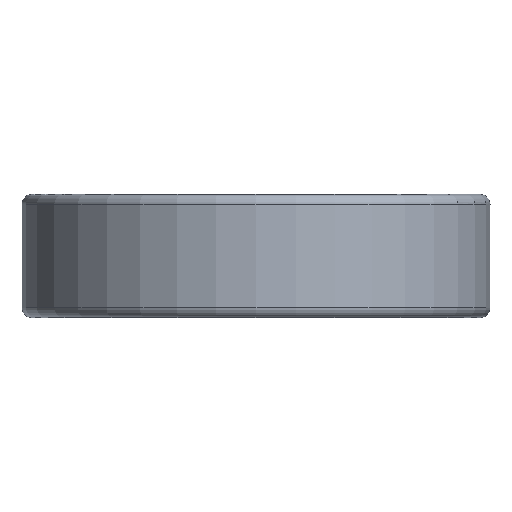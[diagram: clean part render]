
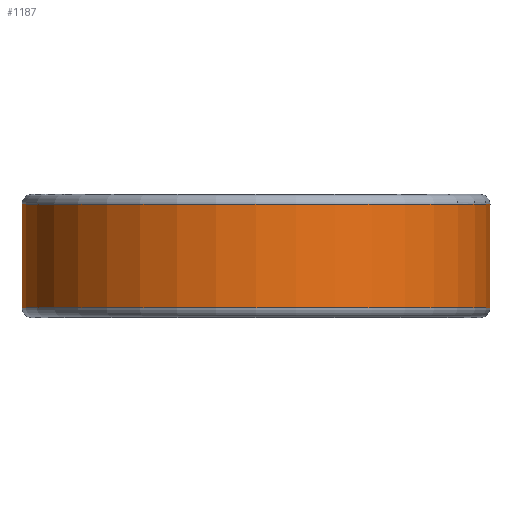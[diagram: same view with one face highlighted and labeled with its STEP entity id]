
A CAD part, left-side view. The second image highlights one B-rep face of the part: STEP entity #1187.
In plain terms, the highlighted cylindrical face has radius 28.5 mm (diameter 57 mm), a partial arc.
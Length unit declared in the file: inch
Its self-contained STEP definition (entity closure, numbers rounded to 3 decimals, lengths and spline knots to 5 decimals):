
#144=DIRECTION('',(0.,0.,1.));
#145=VECTOR('',#144,0.02868);
#146=CARTESIAN_POINT('',(1.09216,0.25725,0.18078));
#147=LINE('',#146,#145);
#148=CARTESIAN_POINT('',(1.09216,0.25725,0.40977));
#149=CARTESIAN_POINT('',(1.08242,0.2986,0.42484));
#150=CARTESIAN_POINT('',(1.05925,0.37595,0.4521));
#151=CARTESIAN_POINT('',(1.01779,0.47603,0.4817));
#152=CARTESIAN_POINT('',(0.97242,0.56233,
0.50013));
#153=CARTESIAN_POINT('',(0.92568,0.63588,
0.50765));
#154=CARTESIAN_POINT('',(0.87975,0.69767,
0.50488));
#155=CARTESIAN_POINT('',(0.83672,0.74842,
0.49279));
#156=CARTESIAN_POINT('',(0.79837,0.78894,
0.47273));
#157=CARTESIAN_POINT('',(0.76627,0.81995,
0.44665));
#158=CARTESIAN_POINT('',(0.74098,0.84274,
0.41653));
#159=CARTESIAN_POINT('',(0.72226,0.85876,
0.38364));
#160=CARTESIAN_POINT('',(0.70992,0.86894,
0.34893));
#161=CARTESIAN_POINT('',(0.7038,0.87388,
0.31319));
#162=CARTESIAN_POINT('',(0.70382,0.87386,
0.27712));
#163=CARTESIAN_POINT('',(0.70998,0.86889,
0.24139));
#164=CARTESIAN_POINT('',(0.72236,0.85867,
0.20669));
#165=CARTESIAN_POINT('',(0.74112,0.84262,
0.17381));
#166=CARTESIAN_POINT('',(0.76647,0.81977,
0.14371));
#167=CARTESIAN_POINT('',(0.79856,0.78875,
0.11771));
#168=CARTESIAN_POINT('',(0.83684,0.74828,
0.09772));
#169=CARTESIAN_POINT('',(0.87981,0.69759,
0.08566));
#170=CARTESIAN_POINT('',(0.92566,0.6359,
0.08291));
#171=CARTESIAN_POINT('',(0.97237,0.56242,
0.09041));
#172=CARTESIAN_POINT('',(1.01774,0.47613,0.10883));
#173=CARTESIAN_POINT('',(1.05922,0.37603,0.13842));
#174=CARTESIAN_POINT('',(1.08241,0.29864,0.1657));
#175=CARTESIAN_POINT('',(1.09216,0.25725,0.18078));
#177=DIRECTION('',(0.,0.,1.));
#178=VECTOR('',#177,0.02868);
#179=CARTESIAN_POINT('',(1.09216,0.25725,0.38109));
#180=LINE('',#179,#178);
#181=CARTESIAN_POINT('',(0.915,-0.64943,0.19371));
#182=CARTESIAN_POINT('',(0.90705,-0.66063,
0.19371));
#183=CARTESIAN_POINT('',(0.89165,-0.68147,
0.19556));
#184=CARTESIAN_POINT('',(0.87021,-0.70857,
0.2032));
#185=CARTESIAN_POINT('',(0.85139,-0.73099,
0.21509));
#186=CARTESIAN_POINT('',(0.83593,-0.74856,
0.23034));
#187=CARTESIAN_POINT('',(0.82439,-0.76121,
0.2479));
#188=CARTESIAN_POINT('',(0.81686,-0.76925,
0.2667));
#189=CARTESIAN_POINT('',(0.81317,-0.77314,
0.28647));
#190=CARTESIAN_POINT('',(0.81341,-0.77289,
0.30643));
#191=CARTESIAN_POINT('',(0.8175,-0.76857,
0.32597));
#192=CARTESIAN_POINT('',(0.82536,-0.76016,
0.34442));
#193=CARTESIAN_POINT('',(0.83704,-0.74732,
0.36149));
#194=CARTESIAN_POINT('',(0.8524,-0.72981,
0.37621));
#195=CARTESIAN_POINT('',(0.87094,-0.70766,
0.38767));
#196=CARTESIAN_POINT('',(0.89201,-0.68099,
0.39505));
#197=CARTESIAN_POINT('',(0.90717,-0.66046,
0.39684));
#198=CARTESIAN_POINT('',(0.915,-0.64943,0.39684));
#200=CARTESIAN_POINT('',(0.915,-0.64943,0.39684));
#201=CARTESIAN_POINT('',(0.92224,-0.63923,
0.39684));
#202=CARTESIAN_POINT('',(0.93568,-0.61958,
0.39531));
#203=CARTESIAN_POINT('',(0.95294,-0.59263,
0.39001));
#204=CARTESIAN_POINT('',(0.96763,-0.56826,
0.38261));
#205=CARTESIAN_POINT('',(0.98003,-0.54654,
0.37375));
#206=CARTESIAN_POINT('',(0.99045,-0.52738,
0.36376));
#207=CARTESIAN_POINT('',(0.99912,-0.51074,
0.35275));
#208=CARTESIAN_POINT('',(1.00616,-0.49669,
0.3408));
#209=CARTESIAN_POINT('',(1.01155,-0.48558,
0.32785));
#210=CARTESIAN_POINT('',(1.01511,-0.47808,
0.31426));
#211=CARTESIAN_POINT('',(1.01671,-0.47465,
0.3006));
#212=CARTESIAN_POINT('',(1.01651,-0.47509,
0.28688));
#213=CARTESIAN_POINT('',(1.0145,-0.47937,
0.27346));
#214=CARTESIAN_POINT('',(1.01076,-0.48724,
0.26048));
#215=CARTESIAN_POINT('',(1.00533,-0.49836,
0.2482));
#216=CARTESIAN_POINT('',(0.99833,-0.51227,
0.23669));
#217=CARTESIAN_POINT('',(0.98972,-0.52875,
0.22602));
#218=CARTESIAN_POINT('',(0.97938,-0.54772,
0.21628));
#219=CARTESIAN_POINT('',(0.96706,-0.56923,
0.2076));
#220=CARTESIAN_POINT('',(0.95249,-0.59334,
0.20038));
#221=CARTESIAN_POINT('',(0.93541,-0.61998,
0.1952));
#222=CARTESIAN_POINT('',(0.92214,-0.63937,
0.19371));
#223=CARTESIAN_POINT('',(0.915,-0.64943,0.19371));
#240=DIRECTION('',(0.,0.,-1.));
#241=VECTOR('',#240,0.17164);
#242=CARTESIAN_POINT('',(1.09216,0.25725,0.38109));
#243=LINE('',#242,#241);
#311=CARTESIAN_POINT('',(1.12161,0.0313,0.54331));
#321=DIRECTION('',(0.,0.,-1.));
#322=VECTOR('',#321,0.49607);
#323=CARTESIAN_POINT('',(1.12161,0.0313,0.54331));
#324=LINE('',#323,#322);
#333=CARTESIAN_POINT('',(1.12161,0.0313,0.04724));
#497=CARTESIAN_POINT('',(1.12161,-0.0313,
0.04724));
#507=DIRECTION('',(0.,0.,1.));
#508=VECTOR('',#507,0.49607);
#509=CARTESIAN_POINT('',(1.12161,-0.0313,
0.04724));
#510=LINE('',#509,#508);
#519=CARTESIAN_POINT('',(1.12161,-0.0313,
0.54331));
#563=CARTESIAN_POINT('',(0.,0.,0.54331));
#564=DIRECTION('',(0.,0.,1.));
#565=DIRECTION('',(1.,0.028,0.));
#566=AXIS2_PLACEMENT_3D('',#563,#564,#565);
#710=CARTESIAN_POINT('',(0.,0.,0.04724));
#711=DIRECTION('',(0.,0.,-1.));
#712=DIRECTION('',(1.,-0.028,0.));
#713=AXIS2_PLACEMENT_3D('',#710,#711,#712);
#756=CARTESIAN_POINT('',(1.09216,0.25725,0.20946));
#758=VERTEX_POINT('',#756);
#759=CARTESIAN_POINT('',(1.09216,0.25725,0.38109));
#761=VERTEX_POINT('',#759);
#811=VERTEX_POINT('',#497);
#813=VERTEX_POINT('',#519);
#828=VERTEX_POINT('',#311);
#830=VERTEX_POINT('',#333);
#846=CARTESIAN_POINT('',(1.09216,0.25725,0.18078));
#847=VERTEX_POINT('',#846);
#848=CARTESIAN_POINT('',(1.09216,0.25725,0.40977));
#849=VERTEX_POINT('',#848);
#850=VERTEX_POINT('',#181);
#851=VERTEX_POINT('',#198);
#1158=CARTESIAN_POINT('',(0.,0.,0.59055));
#1159=DIRECTION('',(0.,0.,-1.));
#1160=DIRECTION('',(-1.,0.,0.));
#1161=AXIS2_PLACEMENT_3D('',#1158,#1159,#1160);
#1162=CYLINDRICAL_SURFACE('',#1161,1.12205);
#1164=ORIENTED_EDGE('',*,*,#1163,.T.);
#1166=ORIENTED_EDGE('',*,*,#1165,.F.);
#1168=ORIENTED_EDGE('',*,*,#1167,.T.);
#1170=ORIENTED_EDGE('',*,*,#1169,.F.);
#1171=EDGE_LOOP('',(#1164,#1166,#1168,#1170));
#1172=FACE_OUTER_BOUND('',#1171,.F.);
#1173=ORIENTED_EDGE('',*,*,#1127,.F.);
#1175=ORIENTED_EDGE('',*,*,#1174,.F.);
#1176=ORIENTED_EDGE('',*,*,#1123,.F.);
#1178=ORIENTED_EDGE('',*,*,#1177,.T.);
#1179=EDGE_LOOP('',(#1173,#1175,#1176,#1178));
#1180=FACE_BOUND('',#1179,.F.);
#1182=ORIENTED_EDGE('',*,*,#1181,.F.);
#1184=ORIENTED_EDGE('',*,*,#1183,.F.);
#1185=EDGE_LOOP('',(#1182,#1184));
#1186=FACE_BOUND('',#1185,.F.);
#176=B_SPLINE_CURVE_WITH_KNOTS('',3,(#148,#149,#150,#151,#152,#153,#154,#155,
#156,#157,#158,#159,#160,#161,#162,#163,#164,#165,#166,#167,#168,#169,#170,#171,
#172,#173,#174,#175),.UNSPECIFIED.,.F.,.F.,(4,1,1,1,1,1,1,1,1,1,1,1,1,1,1,1,1,1,
1,1,1,1,1,1,1,4),(0.,0.04,0.08,0.12,0.16,0.2,0.24,0.28,0.32,
0.36,0.4,0.44,0.48,0.52,0.56,0.6,0.64,0.68,0.72,0.76,
0.8,0.84,0.88,0.92,0.96,1.),.UNSPECIFIED.);
#199=B_SPLINE_CURVE_WITH_KNOTS('',3,(#181,#182,#183,#184,#185,#186,#187,#188,
#189,#190,#191,#192,#193,#194,#195,#196,#197,#198),.UNSPECIFIED.,.F.,.F.,(4,1,1,
1,1,1,1,1,1,1,1,1,1,1,1,4),(0.,0.06667,0.13333,0.2,
0.26667,0.33333,0.4,0.46667,0.53333,
0.6,0.66667,0.73333,0.8,0.86667,
0.93333,1.),.UNSPECIFIED.);
#224=B_SPLINE_CURVE_WITH_KNOTS('',3,(#200,#201,#202,#203,#204,#205,#206,#207,
#208,#209,#210,#211,#212,#213,#214,#215,#216,#217,#218,#219,#220,#221,#222,
#223),.UNSPECIFIED.,.F.,.F.,(4,1,1,1,1,1,1,1,1,1,1,1,1,1,1,1,1,1,1,1,1,4),(0.,
0.04762,0.09524,0.14286,0.19048,
0.2381,0.28571,0.33333,0.38095,
0.42857,0.47619,0.52381,0.57143,
0.61905,0.66667,0.71429,0.7619,
0.80952,0.85714,0.90476,0.95238,1.),
.UNSPECIFIED.);
#567=CIRCLE('',#566,1.12205);
#714=CIRCLE('',#713,1.12205);
#1123=EDGE_CURVE('',#761,#849,#180,.T.);
#1127=EDGE_CURVE('',#847,#758,#147,.T.);
#1163=EDGE_CURVE('',#811,#830,#714,.T.);
#1165=EDGE_CURVE('',#828,#830,#324,.T.);
#1167=EDGE_CURVE('',#828,#813,#567,.T.);
#1169=EDGE_CURVE('',#811,#813,#510,.T.);
#1174=EDGE_CURVE('',#849,#847,#176,.T.);
#1177=EDGE_CURVE('',#761,#758,#243,.T.);
#1181=EDGE_CURVE('',#850,#851,#199,.T.);
#1183=EDGE_CURVE('',#851,#850,#224,.T.);
#1187=ADVANCED_FACE('',(#1172,#1180,#1186),#1162,.T.);
